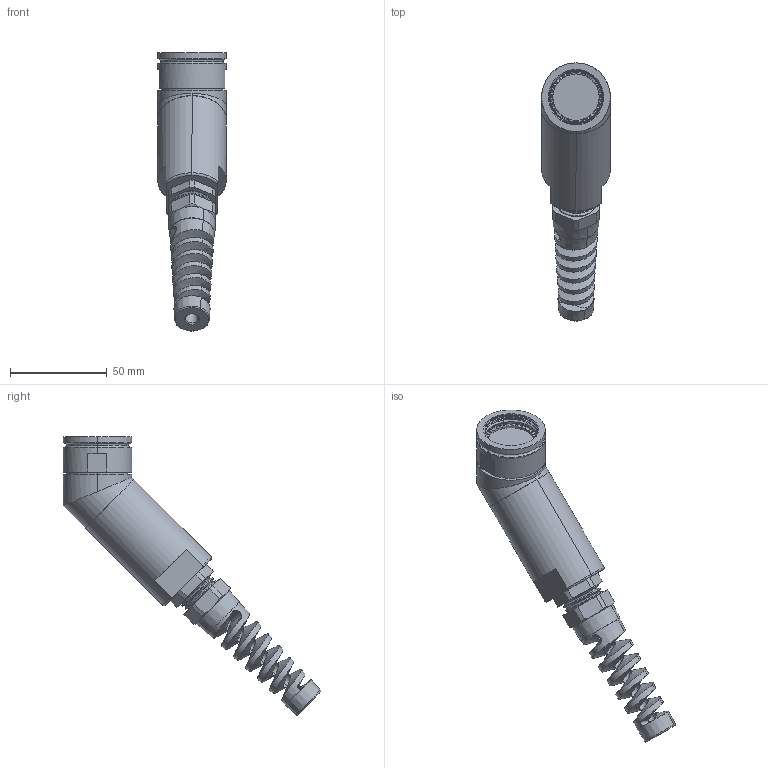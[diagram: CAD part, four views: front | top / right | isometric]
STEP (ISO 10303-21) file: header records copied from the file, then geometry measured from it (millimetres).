
FILE_DESCRIPTION (( 'STEP AP214' ), '1' );
FILE_NAME ('Q38SHELL-45X-19-XXXX-GB.STEP', '2025-09-25T20:57:06', ( '' ), ( '' ), 'SwSTEP 2.0', 'SolidWorks 2024', '' );
FILE_SCHEMA (( 'AUTOMOTIVE_DESIGN' ));
Length unit declared in the file: millimetre
Products named in the file (1): Q38SHELL-45X-19-XXXX-GB
Bounding box: 35.38 x 132.94 x 143.48 mm (x, y, z)
Volume: 107356.1 mm3; surface area: 25134 mm2
Topology: 2 solids, 2 shells, 300 faces, 942 edges, 661 vertices
Faces by surface type: plane 169, cylinder 73, cone 38, torus 13, bspline 7
Entity records: 15615 total; most frequent: CARTESIAN_POINT 7799, ORIENTED_EDGE 1884, DIRECTION 1417, EDGE_CURVE 942, VERTEX_POINT 661, AXIS2_PLACEMENT_3D 577, EDGE_LOOP 319, ADVANCED_FACE 300
